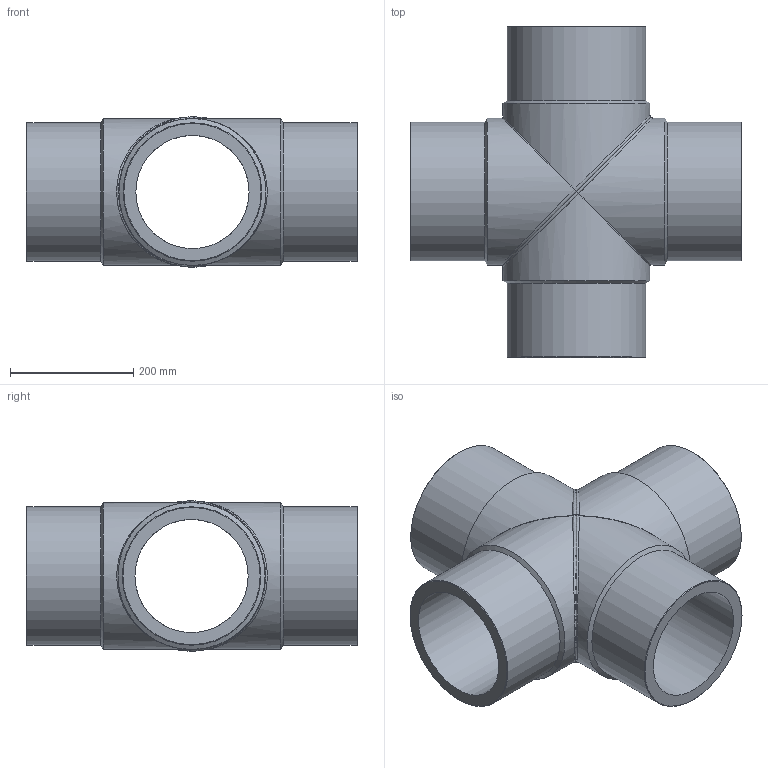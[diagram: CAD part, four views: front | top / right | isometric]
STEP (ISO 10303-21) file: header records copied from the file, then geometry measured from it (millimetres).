
FILE_DESCRIPTION(/* description */ ('Unknown'),/* implementation_level */ '2;1');
FILE_NAME(/* name */ 'CRP225C',/* time_stamp */ '2022-07-07T17:07:24+02:00',/* author */ ('Unknown'),/* organization */ ('Unknown'),/* preprocessor_version */ 'ST-DEVELOPER v18.102',/* originating_system */ 'Solid Edge',/* authorisation */ 'Unknown');
FILE_SCHEMA (('AUTOMOTIVE_DESIGN {1 0 10303 214 3 1 1}'));
Length unit declared in the file: millimetre
Products named in the file (3): CRP225C; CRP225C_mir
Assembly tree (2 placements, depth 2):
  CRP225C
    CRP225C
    CRP225C_mir
Bounding box: 538.5 x 538.5 x 243.99 mm (x, y, z)
Volume: 12222455.3 mm3; surface area: 1162254.3 mm2
Topology: 2 solids, 2 shells, 32 faces, 88 edges, 58 vertices
Faces by surface type: cylinder 12, cone 8, plane 6, bspline 6
Full cylindrical faces by diameter (mm): 184 x4, 225 x4, 239 x4
Entity records: 3479 total; most frequent: CARTESIAN_POINT 2761, DIRECTION 126, ORIENTED_EDGE 116, AXIS2_PLACEMENT_3D 63, EDGE_CURVE 58, EDGE_LOOP 58, FACE_BOUND 58, VERTEX_POINT 48
